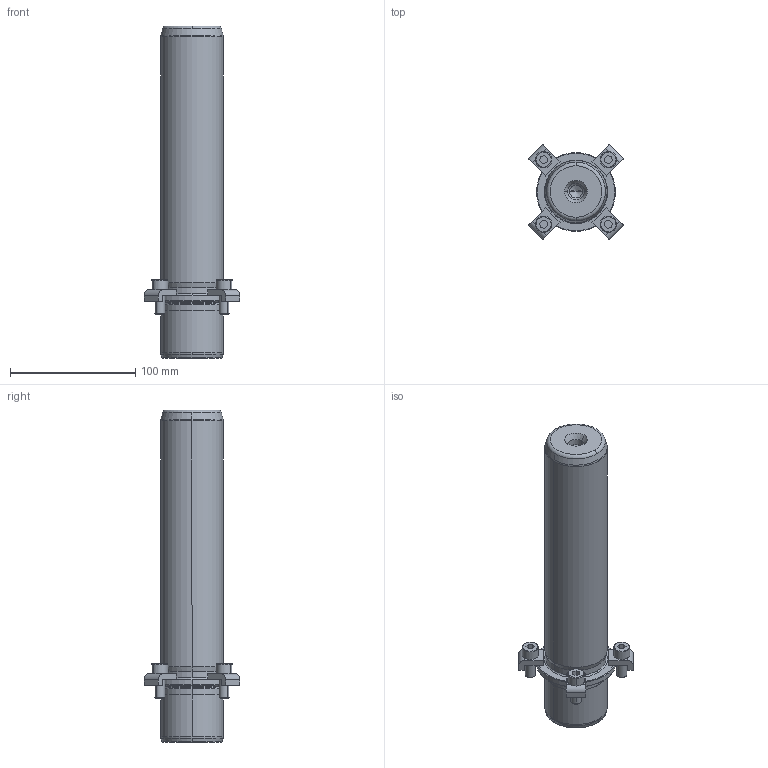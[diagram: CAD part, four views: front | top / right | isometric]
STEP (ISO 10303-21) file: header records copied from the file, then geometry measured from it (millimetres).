
FILE_DESCRIPTION((''),'2;1');
FILE_NAME('P21_050_220.stp','2008-12-23T13:44:11',(''),(''),'Mechanical Desktop 2009','Mechanical Desktop 2009',', , ');
FILE_SCHEMA(('CONFIG_CONTROL_DESIGN'));
Length unit declared in the file: millimetre
Products named in the file (2): Product; blmdl1
Assembly tree (1 placements, depth 2):
  Product
    blmdl1
Bounding box: 76.01 x 76.01 x 265 mm (x, y, z)
Volume: 528495.8 mm3; surface area: 58994.9 mm2
Topology: 9 solids, 9 shells, 195 faces, 477 edges, 309 vertices
Faces by surface type: plane 77, cylinder 52, cone 34, torus 16, bspline 16
Entity records: 6547 total; most frequent: CARTESIAN_POINT 1683, DIRECTION 1078, ORIENTED_EDGE 946, EDGE_CURVE 473, AXIS2_PLACEMENT_3D 424, VERTEX_POINT 309, CIRCLE 243, VECTOR 230
